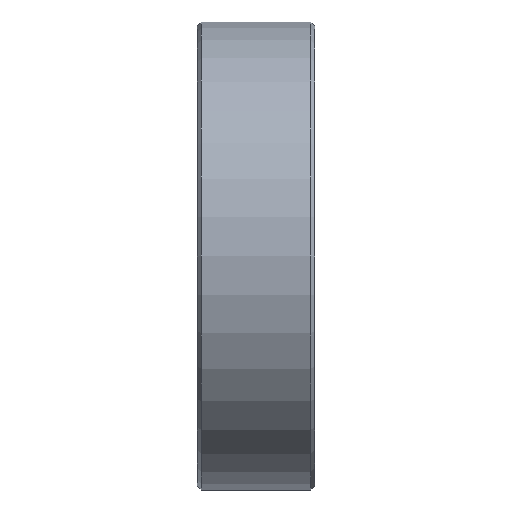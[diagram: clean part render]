
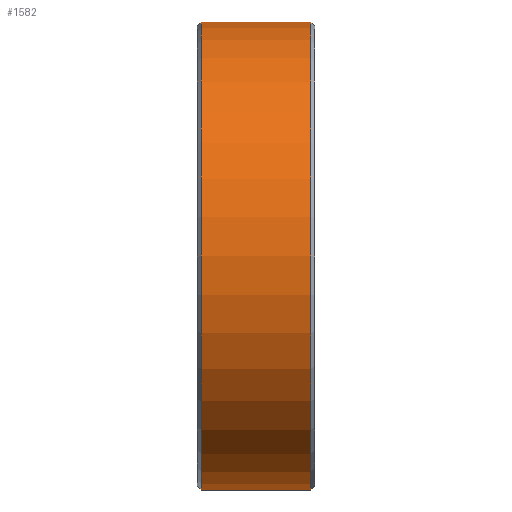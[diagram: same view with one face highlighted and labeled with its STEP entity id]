
A CAD part, front view. The second image highlights one B-rep face of the part: STEP entity #1582.
In plain terms, the highlighted cylindrical face has radius 30 mm (diameter 60 mm), a partial arc.
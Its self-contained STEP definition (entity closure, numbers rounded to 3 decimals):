
#104=LINE('',#2128,#178);
#105=LINE('',#2132,#179);
#178=VECTOR('',#1797,1000.);
#179=VECTOR('',#1800,1000.);
#252=ORIENTED_EDGE('',*,*,#544,.T.);
#253=ORIENTED_EDGE('',*,*,#545,.T.);
#254=ORIENTED_EDGE('',*,*,#546,.F.);
#255=ORIENTED_EDGE('',*,*,#547,.T.);
#544=EDGE_CURVE('',#690,#691,#794,.T.);
#545=EDGE_CURVE('',#691,#692,#104,.T.);
#546=EDGE_CURVE('',#693,#692,#795,.T.);
#547=EDGE_CURVE('',#693,#690,#105,.F.);
#690=VERTEX_POINT('',#2126);
#691=VERTEX_POINT('',#2127);
#692=VERTEX_POINT('',#2129);
#693=VERTEX_POINT('',#2131);
#794=CIRCLE('',#1664,30.);
#795=CIRCLE('',#1665,30.);
#848=EDGE_LOOP('',(#252,#253,#254,#255));
#946=FACE_BOUND('',#848,.T.);
#1048=CYLINDRICAL_SURFACE('',#1663,30.);
#1582=ADVANCED_FACE('',(#946),#1048,.T.);
#1663=AXIS2_PLACEMENT_3D('',#2124,#1793,#1794);
#1664=AXIS2_PLACEMENT_3D('',#2125,#1795,#1796);
#1665=AXIS2_PLACEMENT_3D('',#2130,#1798,#1799);
#1793=DIRECTION('',(1.,0.,0.));
#1794=DIRECTION('',(0.,0.,-1.));
#1795=DIRECTION('',(1.,0.,0.));
#1796=DIRECTION('',(0.,0.,-1.));
#1797=DIRECTION('',(1.,0.,0.));
#1798=DIRECTION('',(1.,0.,0.));
#1799=DIRECTION('',(0.,0.,-1.));
#1800=DIRECTION('',(1.,0.,0.));
#2124=CARTESIAN_POINT('',(7.5,0.,0.));
#2125=CARTESIAN_POINT('',(-7.,0.,0.));
#2126=CARTESIAN_POINT('',(-7.,-2.,29.933));
#2127=CARTESIAN_POINT('',(-7.,-2.,-29.933));
#2128=CARTESIAN_POINT('',(7.5,-2.,-29.933));
#2129=CARTESIAN_POINT('',(7.,-2.,-29.933));
#2130=CARTESIAN_POINT('',(7.,0.,0.));
#2131=CARTESIAN_POINT('',(7.,-2.,29.933));
#2132=CARTESIAN_POINT('',(7.5,-2.,29.933));
